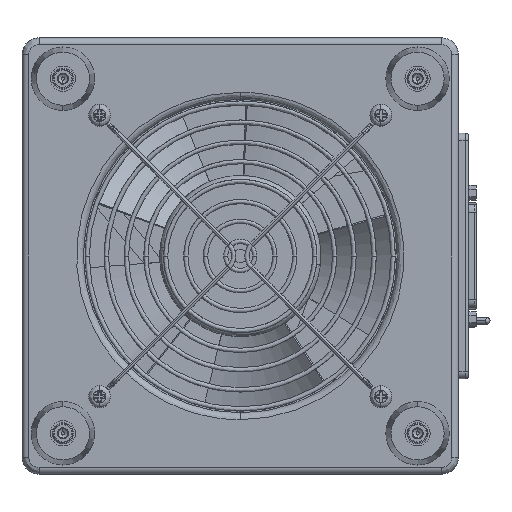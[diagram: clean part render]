
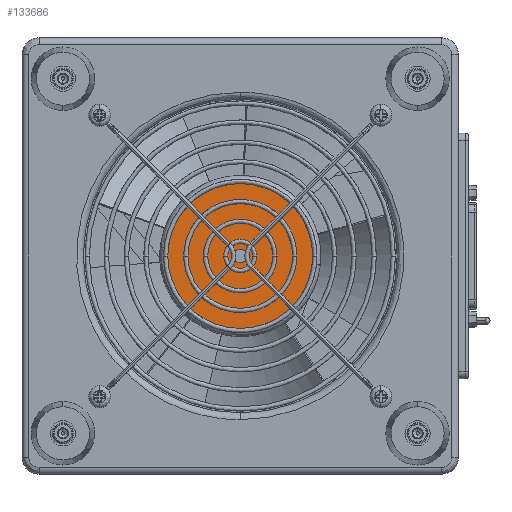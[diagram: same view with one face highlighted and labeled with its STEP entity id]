
A CAD part, front view. The second image highlights one B-rep face of the part: STEP entity #133686.
In plain terms, the highlighted planar face has unit normal (0, -1, 0).
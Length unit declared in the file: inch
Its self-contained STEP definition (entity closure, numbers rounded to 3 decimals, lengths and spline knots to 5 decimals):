
#181 =( BOUNDED_CURVE ( )  B_SPLINE_CURVE ( 3, ( #118105, #105966, #131783, #155247 ),
 .UNSPECIFIED., .F., .F. ) 
 B_SPLINE_CURVE_WITH_KNOTS ( ( 4, 4 ),
 ( 0., 1. ),
 .UNSPECIFIED. ) 
 CURVE ( )  GEOMETRIC_REPRESENTATION_ITEM ( )  RATIONAL_B_SPLINE_CURVE ( ( 0.957, 0.319, 0.319, 0.957 ) ) 
 REPRESENTATION_ITEM ( '' )  );
#5448 = EDGE_CURVE ( 'NONE', #99672, #25365, #15133, .T. ) ;
#5468 = ORIENTED_EDGE ( 'NONE', *, *, #113755, .F. ) ;
#11713 = DIRECTION ( 'NONE',  ( 0., 1., 0. ) ) ;
#15133 = CIRCLE ( 'NONE', #151785, 0.09843 ) ;
#17720 = DIRECTION ( 'NONE',  ( 0., 0., -1. ) ) ;
#24861 = EDGE_CURVE ( 'NONE', #25365, #99672, #60229, .T. ) ;
#25365 = VERTEX_POINT ( 'NONE', #139999 ) ;
#36784 = VERTEX_POINT ( 'NONE', #69736 ) ;
#38355 = DIRECTION ( 'NONE',  ( 0.994, 0., -0.113 ) ) ;
#43537 = DIRECTION ( 'NONE',  ( 0., -1., 0. ) ) ;
#50509 = FACE_OUTER_BOUND ( 'NONE', #134744, .T. ) ;
#59906 = AXIS2_PLACEMENT_3D ( 'NONE', #85263, #11713, #38355 ) ;
#60229 = CIRCLE ( 'NONE', #78191, 0.09843 ) ;
#62670 =( BOUNDED_CURVE ( )  B_SPLINE_CURVE ( 3, ( #98820, #99636, #149703, #88340 ),
 .UNSPECIFIED., .F., .F. ) 
 B_SPLINE_CURVE_WITH_KNOTS ( ( 4, 4 ),
 ( 0., 1. ),
 .UNSPECIFIED. ) 
 CURVE ( )  GEOMETRIC_REPRESENTATION_ITEM ( )  RATIONAL_B_SPLINE_CURVE ( ( 0.957, 0.319, 0.319, 0.957 ) ) 
 REPRESENTATION_ITEM ( '' )  );
#69736 = CARTESIAN_POINT ( 'NONE',  ( -1.05619, 0.765, 0.12003 ) ) ;
#78191 = AXIS2_PLACEMENT_3D ( 'NONE', #141179, #153345, #155769 ) ;
#80073 = VERTEX_POINT ( 'NONE', #148335 ) ;
#84479 = EDGE_LOOP ( 'NONE', ( #118694, #86274 ) ) ;
#85263 = CARTESIAN_POINT ( 'NONE',  ( -0.9474, 0.765, 1.19033 ) ) ;
#86274 = ORIENTED_EDGE ( 'NONE', *, *, #5448, .F. ) ;
#86958 = EDGE_CURVE ( 'NONE', #80073, #36784, #62670, .T. ) ;
#88340 = CARTESIAN_POINT ( 'NONE',  ( -1.05619, 0.765, 0.12003 ) ) ;
#88417 = PLANE ( 'NONE',  #59906 ) ;
#91498 = ORIENTED_EDGE ( 'NONE', *, *, #86958, .F. ) ;
#92806 = CARTESIAN_POINT ( 'NONE',  ( 0., 0.765, 0. ) ) ;
#98820 = CARTESIAN_POINT ( 'NONE',  ( 1.05619, 0.765, -0.12003 ) ) ;
#99636 = CARTESIAN_POINT ( 'NONE',  ( 0.81614, 0.765, -2.23241 ) ) ;
#99672 = VERTEX_POINT ( 'NONE', #152742 ) ;
#105966 = CARTESIAN_POINT ( 'NONE',  ( -0.81614, 0.765, 2.23241 ) ) ;
#113755 = EDGE_CURVE ( 'NONE', #36784, #80073, #181, .T. ) ;
#118105 = CARTESIAN_POINT ( 'NONE',  ( -1.05619, 0.765, 0.12003 ) ) ;
#118694 = ORIENTED_EDGE ( 'NONE', *, *, #24861, .F. ) ;
#131783 = CARTESIAN_POINT ( 'NONE',  ( 1.29625, 0.765, 1.99236 ) ) ;
#133686 = ADVANCED_FACE ( 'NONE', ( #148993, #50509 ), #88417, .F. ) ;
#134744 = EDGE_LOOP ( 'NONE', ( #91498, #5468 ) ) ;
#139999 = CARTESIAN_POINT ( 'NONE',  ( 0., 0.765, -0.09843 ) ) ;
#141179 = CARTESIAN_POINT ( 'NONE',  ( 0., 0.765, 0. ) ) ;
#148335 = CARTESIAN_POINT ( 'NONE',  ( 1.05619, 0.765, -0.12003 ) ) ;
#148993 = FACE_BOUND ( 'NONE', #84479, .T. ) ;
#149703 = CARTESIAN_POINT ( 'NONE',  ( -1.29625, 0.765, -1.99236 ) ) ;
#151785 = AXIS2_PLACEMENT_3D ( 'NONE', #92806, #43537, #17720 ) ;
#152742 = CARTESIAN_POINT ( 'NONE',  ( 0., 0.765, 0.09843 ) ) ;
#153345 = DIRECTION ( 'NONE',  ( 0., -1., 0. ) ) ;
#155247 = CARTESIAN_POINT ( 'NONE',  ( 1.05619, 0.765, -0.12003 ) ) ;
#155769 = DIRECTION ( 'NONE',  ( 0., 0., -1. ) ) ;
